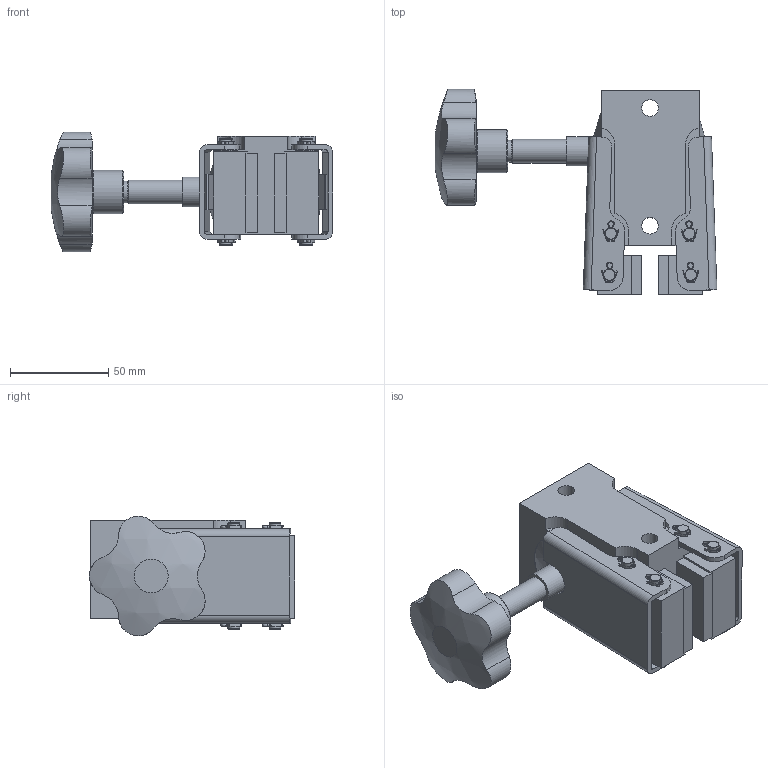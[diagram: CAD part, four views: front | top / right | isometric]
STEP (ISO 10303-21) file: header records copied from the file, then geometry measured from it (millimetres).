
FILE_DESCRIPTION(/* description */ ('','CAx-IF Rec.Pracs.---Representation and Presentation of Product Manufacturing Information (PMI)---4.0---2014-10-13'),/* implementation_level */ '2;1');
FILE_NAME(/* name */ 'X:\INVENTOR\DISEGNI\19_Pinze\STEP x Sito\19_06_C02_02 PMC C02_08.stp',/* time_stamp */ '2018-01-31T16:41:23+01:00',/* author */ ('stefano'),/* organization */ (''),/* preprocessor_version */ 'ST-DEVELOPER v17',/* originating_system */ 'Autodesk Inventor 2018',/* authorisation */ '');
FILE_SCHEMA (('AP242_MANAGED_MODEL_BASED_3D_ENGINEERING_MIM_LF { 1 0 10303 442 1 1 4 }'));
Length unit declared in the file: millimetre
Products named in the file (1): 19_06_C02_02 PMC C02_08_Substitute_2
Bounding box: 143.53 x 104.49 x 60.89 mm (x, y, z)
Volume: 312837.9 mm3; surface area: 71368 mm2
Topology: 7 solids, 7 shells, 431 faces, 1312 edges, 882 vertices
Faces by surface type: plane 155, cylinder 143, bspline 96, cone 34, sphere 3
Full cylindrical faces by diameter (mm): 1.5 x8, 3.242 x2, 4.5 x2, 6 x6, 6.1 x10, 8.5 x2, 11 x1, 12 x1, 15 x1, 22 x1, 40 x2
Entity records: 20592 total; most frequent: CARTESIAN_POINT 8767, ORIENTED_EDGE 2620, DIRECTION 2295, EDGE_CURVE 1310, VERTEX_POINT 882, AXIS2_PLACEMENT_3D 868, LINE 559, VECTOR 559
